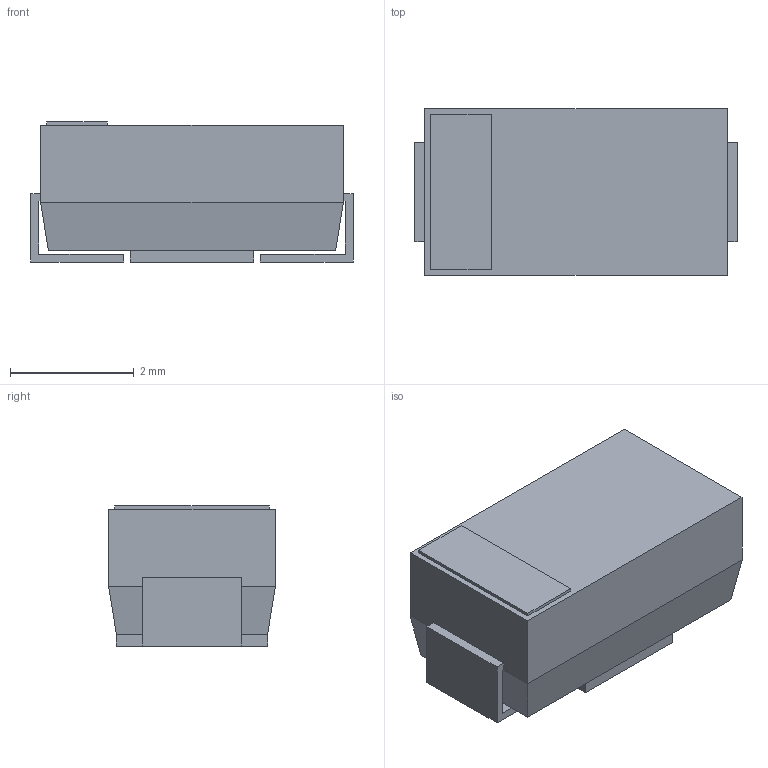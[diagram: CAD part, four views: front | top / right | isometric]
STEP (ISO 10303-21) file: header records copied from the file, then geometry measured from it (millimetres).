
FILE_DESCRIPTION(('STEP AP214'),'1');
FILE_NAME('SDO_DO-214AC_CIP','2026-03-29T10:16:23',(''),(''),'','','');
FILE_SCHEMA(('AUTOMOTIVE_DESIGN'));
Length unit declared in the file: millimetre
Products named in the file (1): product
Bounding box: 5.21 x 2.69 x 2.26 mm (x, y, z)
Volume: 28 mm3; surface area: 80 mm2
Topology: 4 solids, 4 shells, 42 faces, 94 edges, 60 vertices
Faces by surface type: plane 42
Entity records: 1244 total; most frequent: ORIENTED_EDGE 188, DIRECTION 180, CARTESIAN_POINT 103, EDGE_CURVE 94, LINE 94, VECTOR 94, VERTEX_POINT 60, AXIS2_PLACEMENT_3D 43
